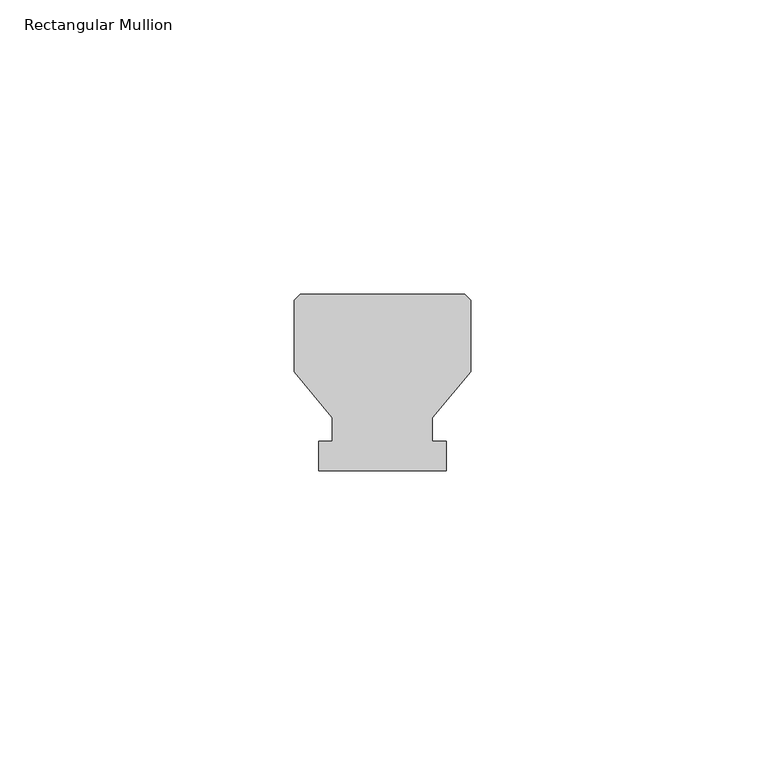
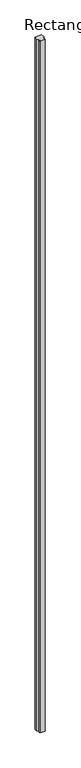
"""IFC4 building model written with IfcOpenShell, lengths in millimetres: member geometry, Rectangular Mullion : Batten_Aluminium_Modinex_Austratus_Linear_Fin_AfricanEbony."""

import ifcopenshell
import ifcopenshell.guid

model = None  # the IFC model being written
_history = None  # IfcOwnerHistory: only IFC2X3 demands one
_inside = {}  # id of a spatial element -> (the spatial element, [elements in it])
_under = {}  # id of a project, library or spatial element -> (it, [spatial elements below it])
_declared = {}  # id of a project -> (the project, [libraries it declares])
_typed = {}  # id of a type object -> (the type object, [elements of that type])
_made_of = {}  # id of a material, layer set ... -> (it, [elements and type objects made of it])


def new_model(schema):
    """Start an empty IFC model of exactly this schema.

    Asked for "IFC4X3", IfcOpenShell would pick the latest addendum, in which some entities
    have other attributes; the version numbers below select the first issue.
    IFC2X3 requires an IfcOwnerHistory on every rooted entity: one is made here for all.
    """
    global model, _history
    if schema == "IFC4X3":
        model = ifcopenshell.file(schema_version=(4, 3, 0, 0))
    else:
        model = ifcopenshell.file(schema=schema)
    _inside.clear()
    _under.clear()
    _declared.clear()
    _typed.clear()
    _made_of.clear()
    _history = None
    if model.schema == "IFC2X3":
        org = make("IfcOrganization", Name="unknown")
        user = make(
            "IfcPersonAndOrganization",
            ThePerson=make("IfcPerson", FamilyName="unknown"),
            TheOrganization=org,
        )
        app = make(
            "IfcApplication",
            ApplicationDeveloper=org,
            Version="unknown",
            ApplicationFullName="unknown",
            ApplicationIdentifier="unknown",
        )
        _history = make(
            "IfcOwnerHistory",
            OwningUser=user,
            OwningApplication=app,
            ChangeAction="ADDED",
            CreationDate=0,
        )
    return model


def make(cls, **values):
    """One entity of the class cls with the attributes given. An attribute that is None is left unset."""
    return model.create_entity(
        cls, **{name: value for name, value in values.items() if value is not None}
    )


def rooted(cls, **values):
    """An entity with a GlobalId (a new one), such as an element, a storey or a relation."""
    return make(cls, GlobalId=ifcopenshell.guid.new(), OwnerHistory=_history, **values)


def si_unit(unit_type, name, prefix=None):
    """IfcSIUnit, for example si_unit("LENGTHUNIT", "METRE", prefix="MILLI")."""
    return make("IfcSIUnit", UnitType=unit_type, Prefix=prefix, Name=name)


def assignment(units):
    """IfcUnitAssignment: the units of a project."""
    return None if units is None else make("IfcUnitAssignment", Units=units)


def point(xyz):
    """IfcCartesianPoint."""
    return None if xyz is None else make("IfcCartesianPoint", Coordinates=xyz)


def direction(xyz):
    """IfcDirection."""
    return None if xyz is None else make("IfcDirection", DirectionRatios=xyz)


def frame(location, z_axis=None, x_axis=None):
    """IfcAxis2Placement3D, a coordinate frame: its origin and axes. An axis left out is left unset."""
    return make(
        "IfcAxis2Placement3D",
        Location=point(location),
        Axis=direction(z_axis),
        RefDirection=direction(x_axis),
    )


def origin():
    """The frame at (0, 0, 0) with its axes left unset."""
    return frame((0.0, 0.0, 0.0))


def place(relative_to, where):
    """IfcLocalPlacement: puts the frame where relative to a parent placement (None: the world)."""
    return make(
        "IfcLocalPlacement", PlacementRelTo=relative_to, RelativePlacement=where
    )


def context(
    kind, dimensions, precision=None, world=None, true_north=None, identifier=None
):
    """IfcGeometricRepresentationContext, for example the 3D "Model" context."""
    return make(
        "IfcGeometricRepresentationContext",
        ContextIdentifier=identifier,
        ContextType=kind,
        CoordinateSpaceDimension=dimensions,
        Precision=precision,
        WorldCoordinateSystem=world,
        TrueNorth=true_north,
    )


def project(units=None, contexts=None):
    """IfcProject with its units and contexts."""
    return rooted(
        "IfcProject",
        Name="project",
        RepresentationContexts=contexts,
        UnitsInContext=assignment(units),
    )


def spatial(cls, under=None, at=None, **own):
    """A site, building, storey or space (cls), placed at a placement, below another one or the project."""
    s = rooted(cls, ObjectPlacement=at, **own)
    if under is not None:
        _under.setdefault(under.id(), (under, []))[1].append(s)
    return s


def polyline(points):
    """IfcPolyline through the points."""
    return make("IfcPolyline", Points=[point(p) for p in points])


def outline(outer, holes=None, kind="AREA"):
    """IfcArbitraryClosedProfileDef: a profile drawn as a closed curve; with holes, ...WithVoids."""
    if holes is None:
        return make("IfcArbitraryClosedProfileDef", ProfileType=kind, OuterCurve=outer)
    return make(
        "IfcArbitraryProfileDefWithVoids",
        ProfileType=kind,
        OuterCurve=outer,
        InnerCurves=holes,
    )


def extrude(swept, where, along, depth):
    """IfcExtrudedAreaSolid: the profile swept, set in the frame where, extruded along a direction by depth."""
    return make(
        "IfcExtrudedAreaSolid",
        SweptArea=swept,
        Position=where,
        ExtrudedDirection=direction(along),
        Depth=depth,
    )


def shape(context_of_items, identifier, shape_type, items):
    """IfcShapeRepresentation: the items that make up one representation, for example the "Body"."""
    return make(
        "IfcShapeRepresentation",
        ContextOfItems=context_of_items,
        RepresentationIdentifier=identifier,
        RepresentationType=shape_type,
        Items=items,
    )


def source(mapping_origin, context_of_items, identifier, shape_type, items):
    """IfcRepresentationMap: a shape defined once, which mapped items show again and again."""
    return make(
        "IfcRepresentationMap",
        MappingOrigin=mapping_origin,
        MappedRepresentation=shape(context_of_items, identifier, shape_type, items),
    )


def transform(
    local_origin,
    x_axis=None,
    y_axis=None,
    z_axis=None,
    scale=None,
    scale2=None,
    scale3=None,
    uniform=True,
):
    """IfcCartesianTransformationOperator3D, or its non-uniform kind. x_axis, y_axis, z_axis: its Axis1, 2, 3."""
    if uniform:
        return make(
            "IfcCartesianTransformationOperator3D",
            Axis1=direction(x_axis),
            Axis2=direction(y_axis),
            LocalOrigin=point(local_origin),
            Scale=scale,
            Axis3=direction(z_axis),
        )
    return make(
        "IfcCartesianTransformationOperator3DnonUniform",
        Axis1=direction(x_axis),
        Axis2=direction(y_axis),
        LocalOrigin=point(local_origin),
        Scale=scale,
        Axis3=direction(z_axis),
        Scale2=scale2,
        Scale3=scale3,
    )


def mapped(mapping_source, mapping_target):
    """IfcMappedItem: shows the shape of a source again, moved by a transform."""
    return make(
        "IfcMappedItem", MappingSource=mapping_source, MappingTarget=mapping_target
    )


def made_of(thing, what):
    """Note that an element or type object is made of a material, layer set ...; save() writes the relation."""
    if what is not None:
        _made_of.setdefault(what.id(), (what, []))[1].append(thing)
    return thing


def element(
    cls,
    number,
    at=None,
    inside=None,
    cuts=None,
    type_object=None,
    material=None,
    context=None,
    identifier="Body",
    shape_type=None,
    held_by="IfcProductDefinitionShape",
    body=None,
    shapes=None,
    **own,
):
    """One element of the class cls, such as IfcWall. Its Tag is "e" and its number.

    at: its placement. inside: the storey or other place that contains it. cuts: it is an
    opening in that element (IfcRelVoidsElement). A single representation is given by context,
    identifier, shape_type and body (its items); several are given by shapes. held_by: the class
    of the entity that holds the representations. save() writes the other relations.
    """
    e = rooted(cls, Tag="e%d" % number, ObjectPlacement=at, **own)
    if body is not None:
        shapes = [shape(context, identifier, shape_type, body)]
    if shapes is not None:
        e.Representation = make(held_by, Representations=shapes)
    if inside is not None:
        _inside.setdefault(inside.id(), (inside, []))[1].append(e)
    if cuts is not None:
        rooted(
            "IfcRelVoidsElement", RelatingBuildingElement=cuts, RelatedOpeningElement=e
        )
    if type_object is not None:
        _typed.setdefault(type_object.id(), (type_object, []))[1].append(e)
    return made_of(e, material)


def aggregate(whole, parts):
    """IfcRelAggregates: a whole, such as a stair, and the parts it consists of."""
    return rooted("IfcRelAggregates", RelatingObject=whole, RelatedObjects=parts)


def save(model, path):
    """Write the relations noted so far, then the file.

    IfcRelAggregates (storeys below a building ...), IfcRelContainedInSpatialStructure (elements
    in a storey), IfcRelDefinesByType, IfcRelAssociatesMaterial and IfcRelDeclares: one each for
    every whole, place, type object, material and project.
    """
    for whole, parts in _under.values():
        aggregate(whole, parts)
    for where, things in _inside.values():
        rooted(
            "IfcRelContainedInSpatialStructure",
            RelatedElements=things,
            RelatingStructure=where,
        )
    for kind, things in _typed.values():
        rooted("IfcRelDefinesByType", RelatedObjects=things, RelatingType=kind)
    for what, things in _made_of.values():
        rooted("IfcRelAssociatesMaterial", RelatedObjects=things, RelatingMaterial=what)
    for by, libraries in _declared.values():
        rooted("IfcRelDeclares", RelatingContext=by, RelatedDefinitions=libraries)
    model.write(path)


def rectangular_mullion_25c8ac94(model_context):
    return source(origin(), model_context, "Body", "SweptSolid", [
        extrude(outline(polyline([(-15.0, 16.8079815), (-15.0, 29.0), (-14.0, 30.0), (14.0, 30.0), (15.0, 29.0), (15.0, 16.8079815), (8.5, 9.0), (8.5, 5.0), (10.812195, 5.0), (10.812195, 0.0), (-10.812195, 0.0), (-10.812195, 5.0), (-8.5, 5.0), (-8.5, 9.0), (-15.0, 16.8079815)])), frame((0.0, 0.0, -3000.0), z_axis=(0.0, 0.0, 1.0), x_axis=(1.0, 0.0, 0.0)), (0.0, 0.0, 1.0), 3000.0),
    ])


if __name__ == "__main__":
    model = new_model("IFC4")
    model_context = context("Model", 3, world=origin())
    ifc_project = project(units=[si_unit("LENGTHUNIT", "METRE", prefix="MILLI")], contexts=[model_context])
    site = spatial("IfcSite", under=ifc_project)
    building = spatial("IfcBuilding", under=site)
    placement = place(None, origin())
    rectangular_mullion_shape = rectangular_mullion_25c8ac94(model_context)
    element("IfcMember", 1, ObjectType="Rectangular Mullion : Batten_Aluminium_Modinex_Austratus_Linear_Fin_AfricanEbony", at=placement, inside=building, context=model_context, shape_type="MappedRepresentation", body=[
        mapped(rectangular_mullion_shape, transform((0.0, 0.0, 0.0), x_axis=(1.0, 0.0, 0.0), y_axis=(0.0, 1.0, 0.0), z_axis=(0.0, 0.0, 1.0))),
    ])
    save(model, "model.ifc")
